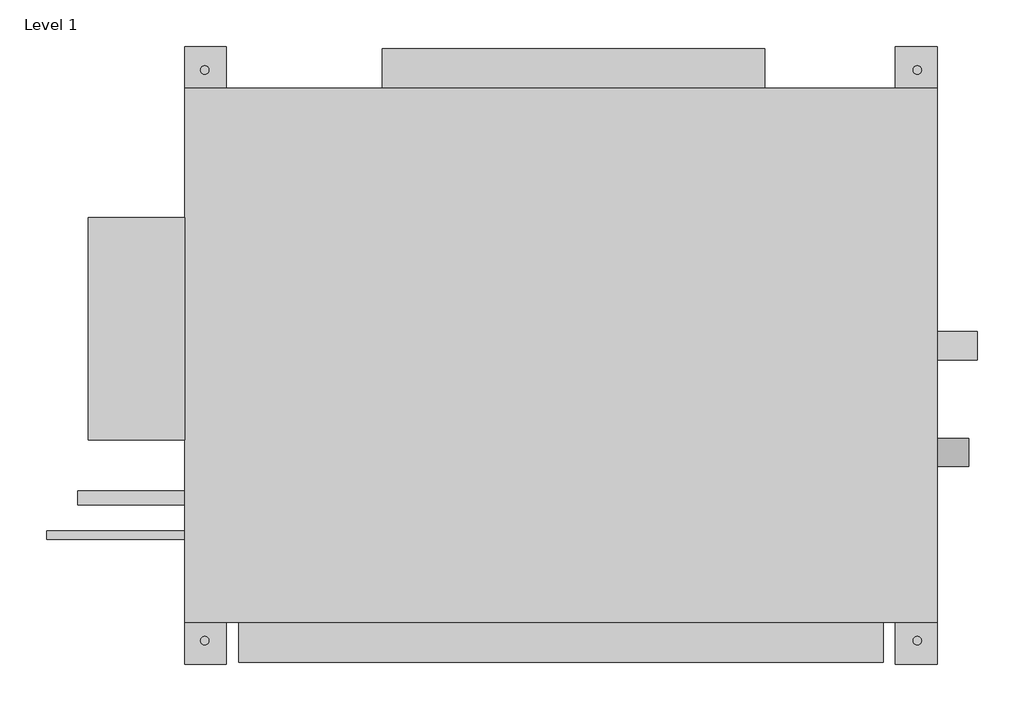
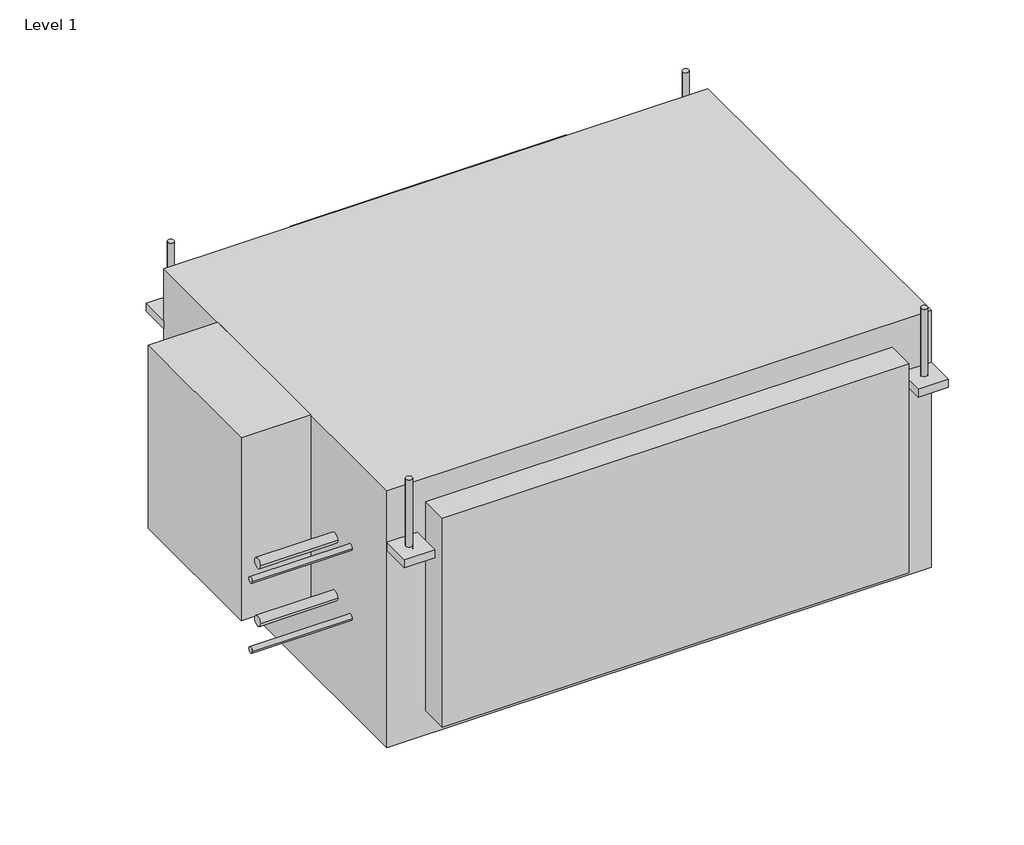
# One storey: 1 proxy.
"""IFC4 building model written with IfcOpenShell, lengths in millimetres."""

from ifc_helpers import new_model, si_unit, origin, place, context, project, spatial, transform, mapped, element, save
from components import proxy_24000_btu_h_73619e10

model = new_model("IFC4")

# Units and contexts
model_context = context("Model", 3, world=origin())
ifc_project = project(units=[si_unit("LENGTHUNIT", "METRE", prefix="MILLI")], contexts=[model_context])

# Site, building, storey
site = spatial("IfcSite", under=ifc_project)
building = spatial("IfcBuilding", under=site)
storey = spatial("IfcBuildingStorey", under=building, Name="Level 1", Elevation=0.0)

# Proxy
placement = place(None, origin())
proxy_24000_btu_h_shape = proxy_24000_btu_h_73619e10(model_context)
element("IfcBuildingElementProxy", 1, Name="Lennox-VRF-24,30,36_Btu-High_Static_Ducted-VHIA-2P_Series : 24000 Btu/h", ObjectType="Lennox-VRF-24,30,36_Btu-High_Static_Ducted-VHIA-2P_Series : 24000 Btu/h", at=placement, inside=storey, context=model_context, shape_type="MappedRepresentation", body=[
    mapped(proxy_24000_btu_h_shape, transform((7791.9650173, 417.5848258, 0.0), x_axis=(1.0, 0.0, 0.0), y_axis=(0.0, 1.0, 0.0), z_axis=(0.0, 0.0, 1.0))),
])

save(model, "model.ifc")
